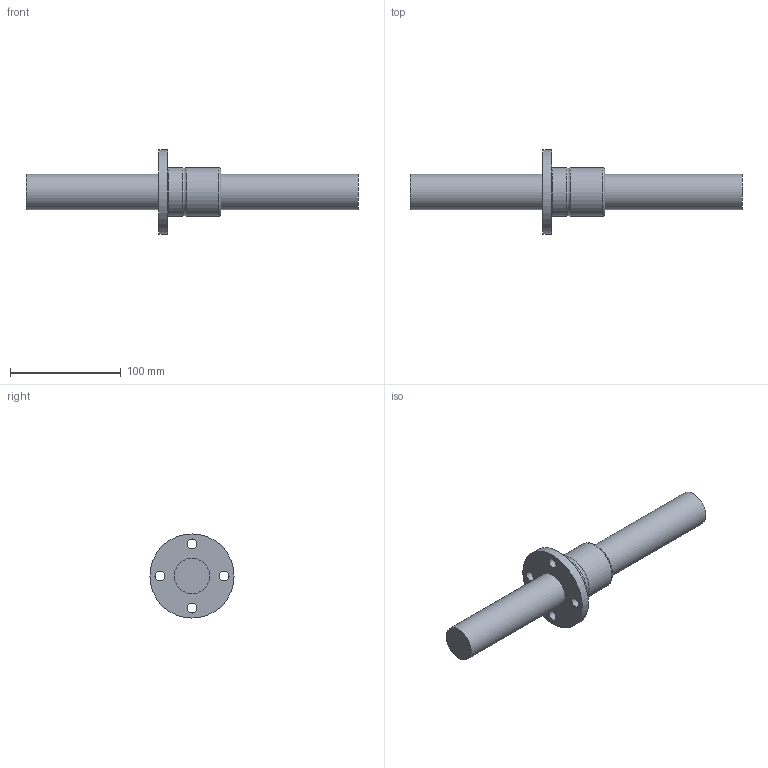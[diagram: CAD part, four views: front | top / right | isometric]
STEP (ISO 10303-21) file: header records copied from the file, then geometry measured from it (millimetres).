
FILE_DESCRIPTION((''),'2;1');
FILE_NAME('D:\製品 (図面)\カタログ用3D\ネジ関連\STEP形式\TMF-OH\TMF32-OH.stp','2010-06-02T15:15:11',('Tsuchiya'),(''),'Autodesk Inventor 10','Autodesk Inventor 10','');
FILE_SCHEMA(('AUTOMOTIVE_DESIGN { 1 0 10303 214 1 1 1 1 }'));
Length unit declared in the file: millimetre
Products named in the file (3): TMF32-OH; TMF32-OH1; TMF32-OH2
Assembly tree (2 placements, depth 2):
  TMF32-OH
    TMF32-OH1
    TMF32-OH2
Bounding box: 300 x 76 x 76 mm (x, y, z)
Volume: 303113.4 mm3; surface area: 53725.1 mm2
Topology: 2 solids, 2 shells, 18 faces, 40 edges, 27 vertices
Faces by surface type: cylinder 10, plane 5, bspline 2, torus 1
Full cylindrical faces by diameter (mm): 2.5 x1, 9 x4, 32 x2, 44 x2, 76 x1
Entity records: 714 total; most frequent: CARTESIAN_POINT 291, DIRECTION 82, ORIENTED_EDGE 44, EDGE_LOOP 44, AXIS2_PLACEMENT_3D 41, FACE_BOUND 26, VERTEX_POINT 22, EDGE_CURVE 22
